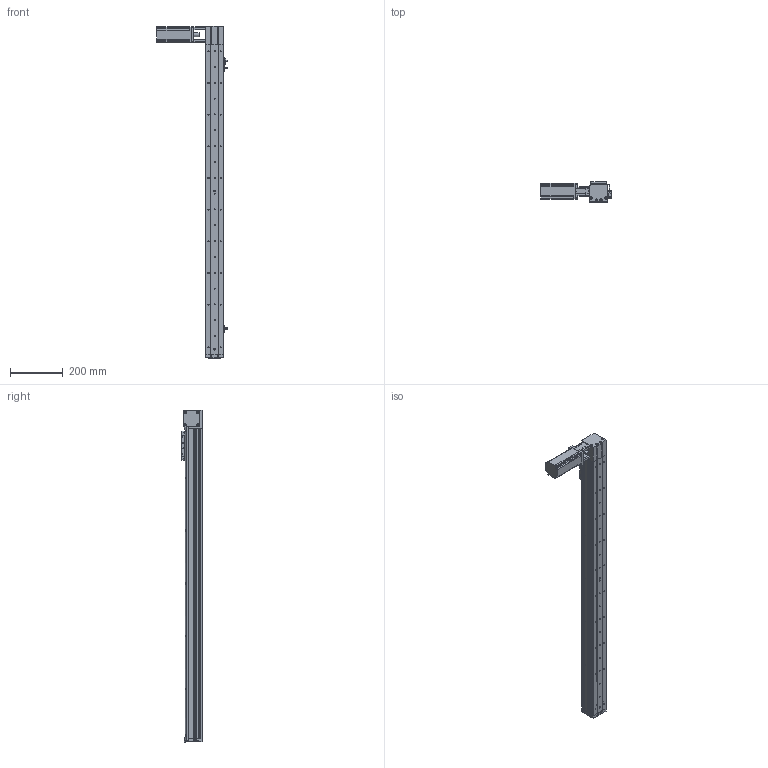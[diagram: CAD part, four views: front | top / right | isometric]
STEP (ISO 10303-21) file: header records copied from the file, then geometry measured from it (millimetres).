
FILE_DESCRIPTION (( 'STEP AP214' ), '1' );
FILE_NAME ('KSD68BS-S1000-MLT-CR.STEP', '2019-08-28T03:37:44', ( '微软用户' ), ( '微软中国' ), 'SwSTEP 2.0', 'SolidWorks 2014', '' );
FILE_SCHEMA (( 'AUTOMOTIVE_DESIGN' ));
Length unit declared in the file: millimetre
Products named in the file (13): 68宽单导轨全封闭丝杆传动安装板1防护罩; KSD68BS 1000行程侧板全封闭; 68宽单导轨全封闭同步带端板; 68单导轨全封闭同步带电机座右; 68单导轨全封闭同步带安装板; 感应片68宽全封闭; U倰嫖萇EEㄜSX672; KSD68BS 1000行程底板全封闭; KSD68BS-S1000-MLT-CR; 台达ECMA－C20604AS伺服电机（400W); 100遵鎮湛假蚾啣1; KSD68BS 1000行程盖板全封闭; 68遵裔啣揤啣1
Assembly tree (16 placements, depth 2):
  KSD68BS-S1000-MLT-CR
    KSD68BS 1000行程底板全封闭
    U倰嫖萇EEㄜSX672  x3
    感应片68宽全封闭
    68单导轨全封闭同步带安装板
    68单导轨全封闭同步带电机座右
    68宽单导轨全封闭同步带端板
    KSD68BS 1000行程侧板全封闭  x2
    68宽单导轨全封闭丝杆传动安装板1防护罩
    68遵裔啣揤啣1  x2
    KSD68BS 1000行程盖板全封闭
    100遵鎮湛假蚾啣1
    台达ECMA－C20604AS伺服电机（400W)
Bounding box: 266.4 x 77 x 1258.1 mm (x, y, z)
Volume: 2485437.1 mm3; surface area: 934241.6 mm2
Topology: 17 solids, 17 shells, 1468 faces, 4184 edges, 2669 vertices
Faces by surface type: cylinder 696, plane 604, cone 168
Entity records: 46613 total; most frequent: CARTESIAN_POINT 7961, DIRECTION 6916, ORIENTED_EDGE 6612, EDGE_CURVE 3306, AXIS2_PLACEMENT_3D 2502, VERTEX_POINT 2167, LINE 1912, VECTOR 1912
